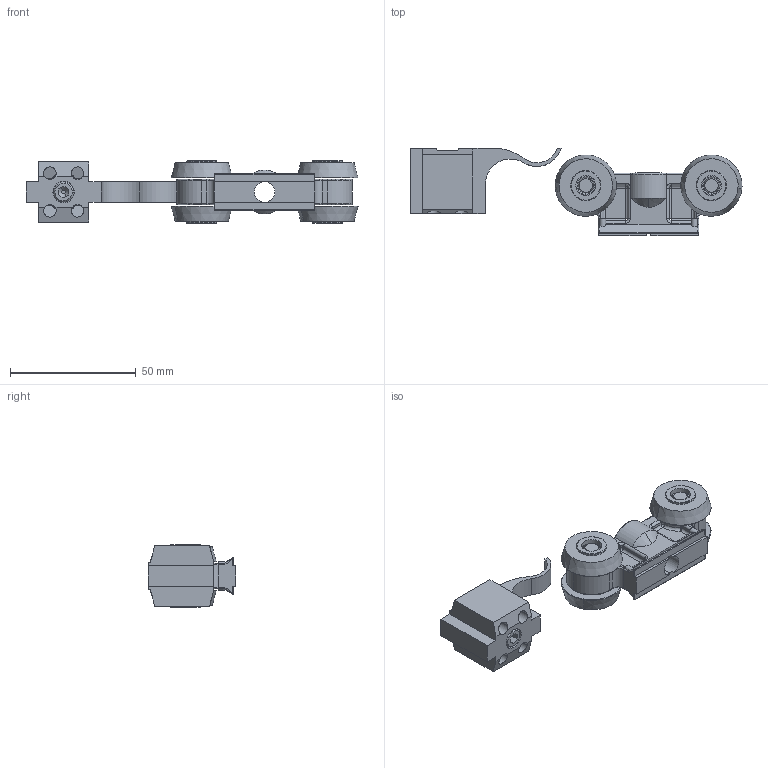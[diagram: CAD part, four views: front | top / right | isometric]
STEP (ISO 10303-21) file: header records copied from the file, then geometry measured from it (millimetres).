
FILE_DESCRIPTION (( 'STEP AP203' ), '1' );
FILE_NAME ('084.535.001.STEP', '2017-03-30T11:51:14', ( 'Localadmin' ), ( 'Microsoft' ), 'SwSTEP 2.0', 'SolidWorks 2016', '' );
FILE_SCHEMA (( 'CONFIG_CONTROL_DESIGN' ));
Length unit declared in the file: metre
Products named in the file (1): 084.535.001
Bounding box: 132.19 x 34.89 x 24.8 mm (x, y, z)
Surface area: 18054.6 mm2 (no closed solid volume)
Topology: 0 solids, 16 shells, 360 faces, 897 edges, 543 vertices
Faces by surface type: cylinder 135, plane 113, torus 65, cone 27, sphere 16, bspline 4
Entity records: 10875 total; most frequent: CARTESIAN_POINT 2190, DIRECTION 1965, ORIENTED_EDGE 1672, EDGE_CURVE 885, AXIS2_PLACEMENT_3D 782, VERTEX_POINT 543, CIRCLE 425, VECTOR 401
